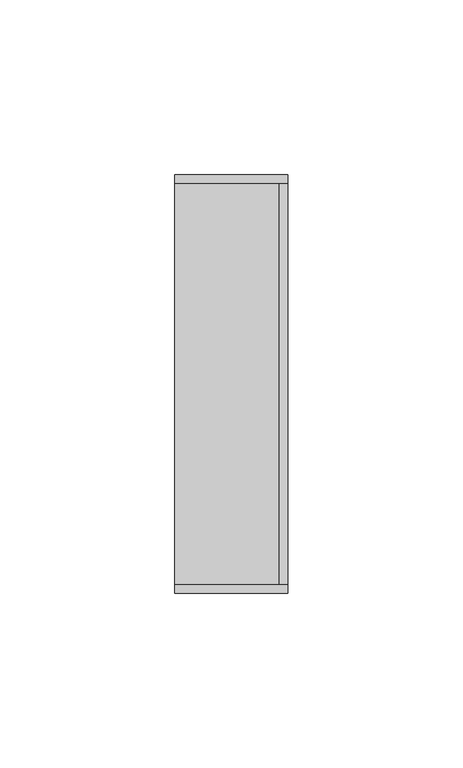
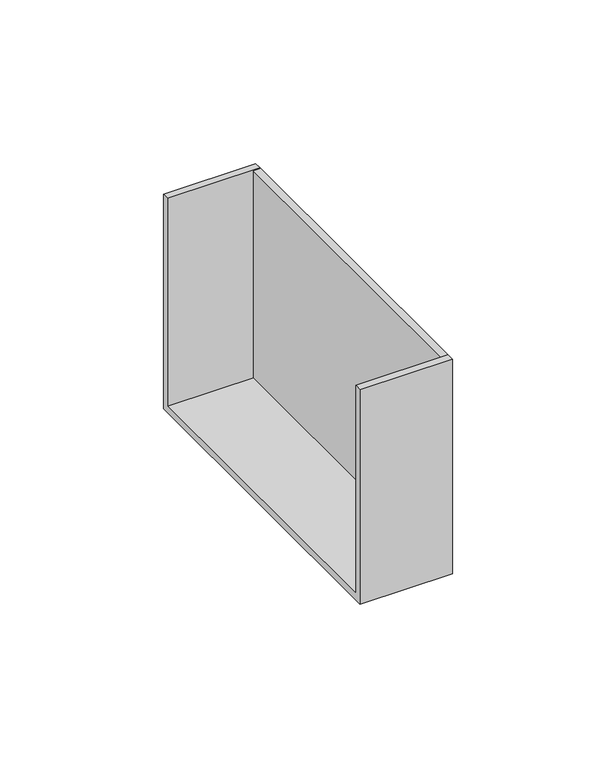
"""IFC4 building model written with IfcOpenShell, lengths in millimetres: cable carrier fitting geometry, КНС_ЗаглушкаТорцеваяLAN_ILC_DKC : Заглушка торцевая LAN_DKC."""

import ifcopenshell
import ifcopenshell.guid

model = None  # the IFC model being written
_history = None  # IfcOwnerHistory: only IFC2X3 demands one
_inside = {}  # id of a spatial element -> (the spatial element, [elements in it])
_under = {}  # id of a project, library or spatial element -> (it, [spatial elements below it])
_declared = {}  # id of a project -> (the project, [libraries it declares])
_typed = {}  # id of a type object -> (the type object, [elements of that type])
_made_of = {}  # id of a material, layer set ... -> (it, [elements and type objects made of it])


def new_model(schema):
    """Start an empty IFC model of exactly this schema.

    Asked for "IFC4X3", IfcOpenShell would pick the latest addendum, in which some entities
    have other attributes; the version numbers below select the first issue.
    IFC2X3 requires an IfcOwnerHistory on every rooted entity: one is made here for all.
    """
    global model, _history
    if schema == "IFC4X3":
        model = ifcopenshell.file(schema_version=(4, 3, 0, 0))
    else:
        model = ifcopenshell.file(schema=schema)
    _inside.clear()
    _under.clear()
    _declared.clear()
    _typed.clear()
    _made_of.clear()
    _history = None
    if model.schema == "IFC2X3":
        org = make("IfcOrganization", Name="unknown")
        user = make(
            "IfcPersonAndOrganization",
            ThePerson=make("IfcPerson", FamilyName="unknown"),
            TheOrganization=org,
        )
        app = make(
            "IfcApplication",
            ApplicationDeveloper=org,
            Version="unknown",
            ApplicationFullName="unknown",
            ApplicationIdentifier="unknown",
        )
        _history = make(
            "IfcOwnerHistory",
            OwningUser=user,
            OwningApplication=app,
            ChangeAction="ADDED",
            CreationDate=0,
        )
    return model


def make(cls, **values):
    """One entity of the class cls with the attributes given. An attribute that is None is left unset."""
    return model.create_entity(
        cls, **{name: value for name, value in values.items() if value is not None}
    )


def rooted(cls, **values):
    """An entity with a GlobalId (a new one), such as an element, a storey or a relation."""
    return make(cls, GlobalId=ifcopenshell.guid.new(), OwnerHistory=_history, **values)


def si_unit(unit_type, name, prefix=None):
    """IfcSIUnit, for example si_unit("LENGTHUNIT", "METRE", prefix="MILLI")."""
    return make("IfcSIUnit", UnitType=unit_type, Prefix=prefix, Name=name)


def assignment(units):
    """IfcUnitAssignment: the units of a project."""
    return None if units is None else make("IfcUnitAssignment", Units=units)


def point(xyz):
    """IfcCartesianPoint."""
    return None if xyz is None else make("IfcCartesianPoint", Coordinates=xyz)


def direction(xyz):
    """IfcDirection."""
    return None if xyz is None else make("IfcDirection", DirectionRatios=xyz)


def frame(location, z_axis=None, x_axis=None):
    """IfcAxis2Placement3D, a coordinate frame: its origin and axes. An axis left out is left unset."""
    return make(
        "IfcAxis2Placement3D",
        Location=point(location),
        Axis=direction(z_axis),
        RefDirection=direction(x_axis),
    )


def origin():
    """The frame at (0, 0, 0) with its axes left unset."""
    return frame((0.0, 0.0, 0.0))


def place(relative_to, where):
    """IfcLocalPlacement: puts the frame where relative to a parent placement (None: the world)."""
    return make(
        "IfcLocalPlacement", PlacementRelTo=relative_to, RelativePlacement=where
    )


def context(
    kind, dimensions, precision=None, world=None, true_north=None, identifier=None
):
    """IfcGeometricRepresentationContext, for example the 3D "Model" context."""
    return make(
        "IfcGeometricRepresentationContext",
        ContextIdentifier=identifier,
        ContextType=kind,
        CoordinateSpaceDimension=dimensions,
        Precision=precision,
        WorldCoordinateSystem=world,
        TrueNorth=true_north,
    )


def project(units=None, contexts=None):
    """IfcProject with its units and contexts."""
    return rooted(
        "IfcProject",
        Name="project",
        RepresentationContexts=contexts,
        UnitsInContext=assignment(units),
    )


def spatial(cls, under=None, at=None, **own):
    """A site, building, storey or space (cls), placed at a placement, below another one or the project."""
    s = rooted(cls, ObjectPlacement=at, **own)
    if under is not None:
        _under.setdefault(under.id(), (under, []))[1].append(s)
    return s


def polyline(points):
    """IfcPolyline through the points."""
    return make("IfcPolyline", Points=[point(p) for p in points])


def outline(outer, holes=None, kind="AREA"):
    """IfcArbitraryClosedProfileDef: a profile drawn as a closed curve; with holes, ...WithVoids."""
    if holes is None:
        return make("IfcArbitraryClosedProfileDef", ProfileType=kind, OuterCurve=outer)
    return make(
        "IfcArbitraryProfileDefWithVoids",
        ProfileType=kind,
        OuterCurve=outer,
        InnerCurves=holes,
    )


def extrude(swept, where, along, depth):
    """IfcExtrudedAreaSolid: the profile swept, set in the frame where, extruded along a direction by depth."""
    return make(
        "IfcExtrudedAreaSolid",
        SweptArea=swept,
        Position=where,
        ExtrudedDirection=direction(along),
        Depth=depth,
    )


def shape(context_of_items, identifier, shape_type, items):
    """IfcShapeRepresentation: the items that make up one representation, for example the "Body"."""
    return make(
        "IfcShapeRepresentation",
        ContextOfItems=context_of_items,
        RepresentationIdentifier=identifier,
        RepresentationType=shape_type,
        Items=items,
    )


def source(mapping_origin, context_of_items, identifier, shape_type, items):
    """IfcRepresentationMap: a shape defined once, which mapped items show again and again."""
    return make(
        "IfcRepresentationMap",
        MappingOrigin=mapping_origin,
        MappedRepresentation=shape(context_of_items, identifier, shape_type, items),
    )


def transform(
    local_origin,
    x_axis=None,
    y_axis=None,
    z_axis=None,
    scale=None,
    scale2=None,
    scale3=None,
    uniform=True,
):
    """IfcCartesianTransformationOperator3D, or its non-uniform kind. x_axis, y_axis, z_axis: its Axis1, 2, 3."""
    if uniform:
        return make(
            "IfcCartesianTransformationOperator3D",
            Axis1=direction(x_axis),
            Axis2=direction(y_axis),
            LocalOrigin=point(local_origin),
            Scale=scale,
            Axis3=direction(z_axis),
        )
    return make(
        "IfcCartesianTransformationOperator3DnonUniform",
        Axis1=direction(x_axis),
        Axis2=direction(y_axis),
        LocalOrigin=point(local_origin),
        Scale=scale,
        Axis3=direction(z_axis),
        Scale2=scale2,
        Scale3=scale3,
    )


def mapped(mapping_source, mapping_target):
    """IfcMappedItem: shows the shape of a source again, moved by a transform."""
    return make(
        "IfcMappedItem", MappingSource=mapping_source, MappingTarget=mapping_target
    )


def made_of(thing, what):
    """Note that an element or type object is made of a material, layer set ...; save() writes the relation."""
    if what is not None:
        _made_of.setdefault(what.id(), (what, []))[1].append(thing)
    return thing


def element(
    cls,
    number,
    at=None,
    inside=None,
    cuts=None,
    type_object=None,
    material=None,
    context=None,
    identifier="Body",
    shape_type=None,
    held_by="IfcProductDefinitionShape",
    body=None,
    shapes=None,
    **own,
):
    """One element of the class cls, such as IfcWall. Its Tag is "e" and its number.

    at: its placement. inside: the storey or other place that contains it. cuts: it is an
    opening in that element (IfcRelVoidsElement). A single representation is given by context,
    identifier, shape_type and body (its items); several are given by shapes. held_by: the class
    of the entity that holds the representations. save() writes the other relations.
    """
    e = rooted(cls, Tag="e%d" % number, ObjectPlacement=at, **own)
    if body is not None:
        shapes = [shape(context, identifier, shape_type, body)]
    if shapes is not None:
        e.Representation = make(held_by, Representations=shapes)
    if inside is not None:
        _inside.setdefault(inside.id(), (inside, []))[1].append(e)
    if cuts is not None:
        rooted(
            "IfcRelVoidsElement", RelatingBuildingElement=cuts, RelatedOpeningElement=e
        )
    if type_object is not None:
        _typed.setdefault(type_object.id(), (type_object, []))[1].append(e)
    return made_of(e, material)


def aggregate(whole, parts):
    """IfcRelAggregates: a whole, such as a stair, and the parts it consists of."""
    return rooted("IfcRelAggregates", RelatingObject=whole, RelatedObjects=parts)


def save(model, path):
    """Write the relations noted so far, then the file.

    IfcRelAggregates (storeys below a building ...), IfcRelContainedInSpatialStructure (elements
    in a storey), IfcRelDefinesByType, IfcRelAssociatesMaterial and IfcRelDeclares: one each for
    every whole, place, type object, material and project.
    """
    for whole, parts in _under.values():
        aggregate(whole, parts)
    for where, things in _inside.values():
        rooted(
            "IfcRelContainedInSpatialStructure",
            RelatedElements=things,
            RelatingStructure=where,
        )
    for kind, things in _typed.values():
        rooted("IfcRelDefinesByType", RelatedObjects=things, RelatingType=kind)
    for what, things in _made_of.values():
        rooted("IfcRelAssociatesMaterial", RelatedObjects=things, RelatingMaterial=what)
    for by, libraries in _declared.values():
        rooted("IfcRelDeclares", RelatingContext=by, RelatedDefinitions=libraries)
    model.write(path)


def cable_carrier_fitting_6c5671ed(model_context):
    return source(origin(), model_context, "Body", "SweptSolid", [
        extrude(outline(polyline([(60.0, -40.0), (-60.0, -40.0), (-60.0, 40.0), (-57.5, 40.0), (-57.5, -37.5), (57.5, -37.5), (57.5, 40.0), (60.0, 40.0), (60.0, -40.0)])), frame((-32.5, 0.0, 0.0), z_axis=(1.0, 0.0, 0.0), x_axis=(0.0, 1.0, 0.0)), (0.0, 0.0, 1.0), 32.5),
        extrude(outline(polyline([(0.0, 57.5), (0.0, -57.5), (-2.5, -57.5), (-2.5, 57.5), (0.0, 57.5)])), frame((0.0, 0.0, -40.0), z_axis=(0.0, 0.0, 1.0), x_axis=(1.0, 0.0, 0.0)), (0.0, 0.0, 1.0), 80.0),
    ])


if __name__ == "__main__":
    model = new_model("IFC4")
    model_context = context("Model", 3, world=origin())
    ifc_project = project(units=[si_unit("LENGTHUNIT", "METRE", prefix="MILLI")], contexts=[model_context])
    site = spatial("IfcSite", under=ifc_project)
    building = spatial("IfcBuilding", under=site)
    placement = place(None, origin())
    cable_carrier_fitting_shape = cable_carrier_fitting_6c5671ed(model_context)
    element("IfcCableCarrierFitting", 1, ObjectType="КНС_ЗаглушкаТорцеваяLAN_ILC_DKC : Заглушка торцевая LAN_DKC", at=placement, inside=building, context=model_context, shape_type="MappedRepresentation", body=[
        mapped(cable_carrier_fitting_shape, transform((0.0, 0.0, 0.0), x_axis=(1.0, 0.0, 0.0), y_axis=(0.0, 1.0, 0.0), z_axis=(0.0, 0.0, 1.0))),
    ])
    save(model, "model.ifc")
